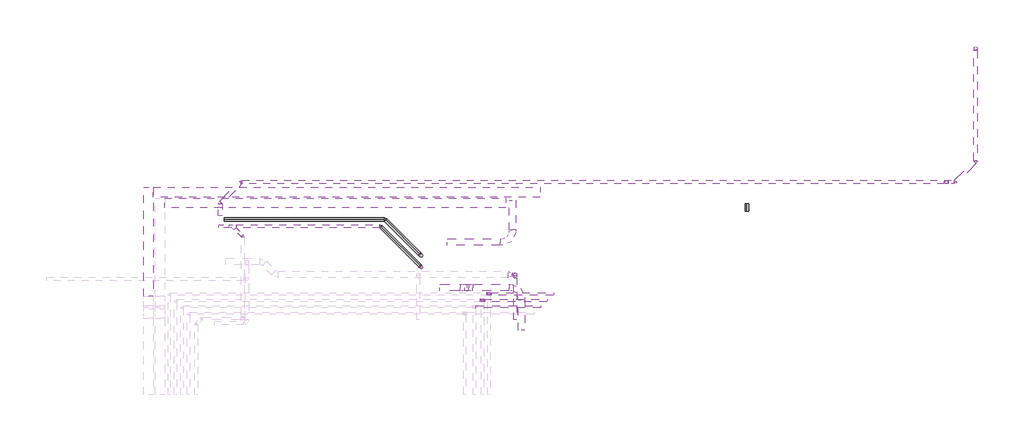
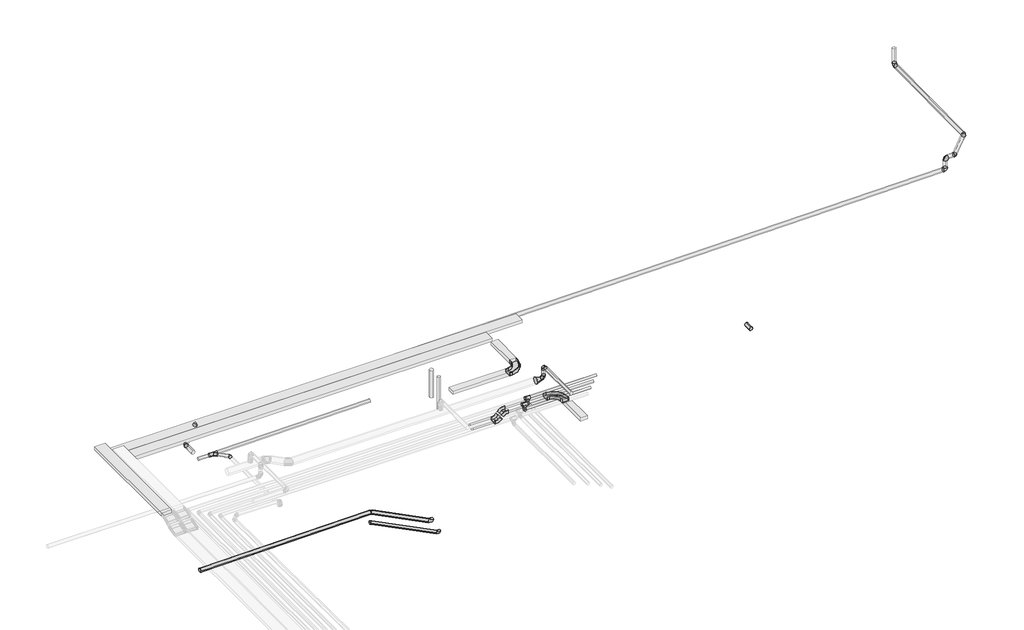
# One storey, part 5 of 5: 22 pipe segments, 17 pipe fittings, 9 cable carrier segments, 4 cable carrier fittings, 3 duct fittings, 2 duct segments.
"""IFC4 building model written with IfcOpenShell, lengths in millimetres."""

from ifc_helpers import new_model, si_unit, point, frame, frame_2d, origin, place, context, project, spatial, polyline, circle_curve, trimmed, segment, composite_curve, outline, extrude, transform, mapped, element, save
from components import m_codo_horizontal_de_canal_el_01cafb92, m_codo_vertical_exterior_de_canal_sf_2009c7b2, m_codo_vertical_interior_de_canal_sf_1a39cf6d, duct_fitting_e1dc29f6, m_codo_redondo_ext_1_d_85067ab4, pipe_fitting_7b861d32, pipe_fitting_67d104e7, pipe_fitting_3454c7e7, pipe_fitting_51958308, pipe_fitting_f9aaa2fa, pipe_fitting_5746b48a, pipe_fitting_3a68447e, pipe_fitting_22462b75, t_soldadura_a_enchufe_ff252817

model = new_model("IFC4")

# Units and contexts
model_context = context("Model", 3, world=origin())
ifc_project = project(units=[si_unit("LENGTHUNIT", "METRE", prefix="MILLI")], contexts=[model_context])

# Site, building, storey
site = spatial("IfcSite", under=ifc_project)
building = spatial("IfcBuilding", under=site)
storey = spatial("IfcBuildingStorey", under=building, Name="Nivell 02 P02_PP", Elevation=14910.0)

# Cable carrier fittings
placement = place(None, origin())
m_codo_horizontal_de_canal_el_shape = m_codo_horizontal_de_canal_el_01cafb92(model_context)
element("IfcCableCarrierFitting", 1, ObjectType="M_Codo horizontal de canal : EL", at=placement, inside=storey, context=model_context, shape_type="MappedRepresentation", body=[
    mapped(m_codo_horizontal_de_canal_el_shape, transform((16260.4560007, 7993.9729991, 17720.0), x_axis=(1.0, 0.0, 0.0), y_axis=(0.0, 1.0, 0.0), z_axis=(0.0, 0.0, 1.0))),
])
element("IfcCableCarrierFitting", 2, ObjectType="M_Codo horizontal de canal : SF", at=placement, inside=storey, context=model_context, shape_type="MappedRepresentation", body=[
    mapped(m_codo_horizontal_de_canal_el_shape, transform((16540.4560007, 6585.5467988, 17720.0), x_axis=(0.0, 1.0, 0.0), y_axis=(-1.0, 0.0, 0.0), z_axis=(0.0, 0.0, 1.0))),
])
m_codo_vertical_exterior_de_canal_sf_shape = m_codo_vertical_exterior_de_canal_sf_2009c7b2(model_context)
element("IfcCableCarrierFitting", 3, ObjectType="M_Codo vertical exterior de canal : SF", at=placement, inside=storey, context=model_context, shape_type="MappedRepresentation", body=[
    mapped(m_codo_vertical_exterior_de_canal_sf_shape, transform((14940.4560007, 6585.5467988, 17720.0), x_axis=(-1.0, 0.0, 0.0), y_axis=(0.0, 0.0, -1.0), z_axis=(0.0, -1.0, 0.0))),
])
m_codo_vertical_interior_de_canal_sf_shape = m_codo_vertical_interior_de_canal_sf_1a39cf6d(model_context)
element("IfcCableCarrierFitting", 4, ObjectType="M_Codo vertical interior de canal : SF", at=placement, inside=storey, context=model_context, shape_type="MappedRepresentation", body=[
    mapped(m_codo_vertical_interior_de_canal_sf_shape, transform((14749.5371698, 6585.5467988, 17529.0811691), x_axis=(-0.707106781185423, 0.0, -0.7071067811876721), y_axis=(-0.7071067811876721, 0.0, 0.707106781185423), z_axis=(0.0, 1.0, 0.0))),
])

# Cable carrier segments
element("IfcCableCarrierSegment", 5, ObjectType="EL", at=placement, inside=storey, context=model_context, shape_type="SweptSolid", body=[
    extrude(outline(polyline([(17114.9442475, 9685.9660196), (17114.9442475, 9385.9660196), (5158.2381883, 9385.9660196), (5158.2381883, 9685.9660196), (17114.9442475, 9685.9660196)])), frame((0.0, 0.0, 17960.0), z_axis=(0.0, 0.0, 1.0), x_axis=(1.0, 0.0, 0.0)), (0.0, 0.0, 1.0), 100.0),
])
element("IfcCableCarrierSegment", 6, ObjectType="EL", at=placement, inside=storey, context=model_context, shape_type="SweptSolid", body=[
    extrude(outline(polyline([(5507.0671065, 9056.732053), (5507.0671065, 9356.732053), (16057.0671065, 9356.732053), (16057.0671065, 9056.732053), (5507.0671065, 9056.732053)])), frame((0.0, 0.0, 17960.0), z_axis=(0.0, 0.0, 1.0), x_axis=(1.0, 0.0, 0.0)), (0.0, 0.0, 1.0), 100.0),
])
element("IfcCableCarrierSegment", 7, ObjectType="EL", at=placement, inside=storey, context=model_context, shape_type="SweptSolid", body=[
    extrude(outline(polyline([(14245.4560007, 7893.9729991), (14245.4560007, 8093.9729991), (15885.4560007, 8093.9729991), (15885.4560007, 7893.9729991), (14245.4560007, 7893.9729991)])), frame((0.0, 0.0, 17670.0), z_axis=(0.0, 0.0, 1.0), x_axis=(1.0, 0.0, 0.0)), (0.0, 0.0, 1.0), 100.0),
])
element("IfcCableCarrierSegment", 8, ObjectType="EL", at=placement, inside=storey, context=model_context, shape_type="SweptSolid", body=[
    extrude(outline(polyline([(16360.4560007, 8368.9729991), (16160.4560007, 8368.9729991), (16160.4560007, 9293.9729991), (16360.4560007, 9293.9729991), (16360.4560007, 8368.9729991)])), frame((0.0, 0.0, 17670.0), z_axis=(0.0, 0.0, 1.0), x_axis=(1.0, 0.0, 0.0)), (0.0, 0.0, 1.0), 100.0),
])
element("IfcCableCarrierSegment", 9, ObjectType="EL", at=placement, inside=storey, context=model_context, shape_type="SweptSolid", body=[
    extrude(outline(polyline([(4858.2381883, 9685.9660196), (5158.2381883, 9685.9660196), (5158.2381883, 6318.3981673), (4858.2381883, 6318.3981673), (4858.2381883, 9685.9660196)])), frame((0.0, 0.0, 18160.0), z_axis=(0.0, 0.0, 1.0), x_axis=(1.0, 0.0, 0.0)), (0.0, 0.0, 1.0), 100.0),
])
element("IfcCableCarrierSegment", 10, ObjectType="SF", at=placement, inside=storey, context=model_context, shape_type="SweptSolid", body=[
    extrude(outline(polyline([(16165.4560007, 6685.5467988), (16165.4560007, 6485.5467988), (15040.3088145, 6485.5467988), (15040.3088145, 6685.5467988), (16165.4560007, 6685.5467988)])), frame((0.0, 0.0, 17670.0), z_axis=(0.0, 0.0, 1.0), x_axis=(1.0, 0.0, 0.0)), (0.0, 0.0, 1.0), 100.0),
])
element("IfcCableCarrierSegment", 11, ObjectType="SF", at=placement, inside=storey, context=model_context, shape_type="SweptSolid", body=[
    extrude(outline(polyline([(16640.4560007, 5265.5467988), (16440.4560007, 5265.5467988), (16440.4560007, 6210.5467988), (16640.4560007, 6210.5467988), (16640.4560007, 5265.5467988)])), frame((0.0, 0.0, 17670.0), z_axis=(0.0, 0.0, 1.0), x_axis=(1.0, 0.0, 0.0)), (0.0, 0.0, 1.0), 100.0),
])
element("IfcCableCarrierSegment", 12, ObjectType="SF", at=placement, inside=storey, context=model_context, shape_type="SweptSolid", body=[
    extrude(outline(polyline([(50.0000001, -11.8033989), (50.0000001, -211.8033989), (-50.0, -211.8033989), (-50.0, -11.8033989), (50.0000001, -11.8033989)])), frame((14820.1437715, 6697.3501977, 17599.6877708), z_axis=(0.7071067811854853, 0.0, 0.7071067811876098), x_axis=(0.7071067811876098, 0.0, -0.7071067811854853)), (0.0, 0.0, 1.0), 70.2943725),
])
element("IfcCableCarrierSegment", 13, ObjectType="SF", at=placement, inside=storey, context=model_context, shape_type="SweptSolid", body=[
    extrude(outline(polyline([(14649.6843561, 6685.5467988), (14649.6843561, 6485.5467988), (14009.5371698, 6485.5467988), (14009.5371698, 6685.5467988), (14649.6843561, 6685.5467988)])), frame((0.0, 0.0, 17479.0811691), z_axis=(0.0, 0.0, 1.0), x_axis=(1.0, 0.0, 0.0)), (0.0, 0.0, 1.0), 100.0),
])

# Duct fittings
duct_fitting_shape = duct_fitting_e1dc29f6(model_context)
element("IfcDuctFitting", 14, ObjectType="M_Transición redonda - Ángulo : EXT_45 graus", at=placement, inside=storey, context=model_context, shape_type="MappedRepresentation", body=[
    mapped(duct_fitting_shape, transform((16250.5896993, 6992.2199701, 17990.0), x_axis=(-1.0, 0.0, 0.0), y_axis=(0.0, -1.0, 0.0), z_axis=(0.0, 0.0, 1.0))),
])
m_codo_redondo_ext_1_d_shape = m_codo_redondo_ext_1_d_85067ab4(model_context)
element("IfcDuctFitting", 15, ObjectType="M_Codo redondo : EXT_1 D", at=placement, inside=storey, context=model_context, shape_type="MappedRepresentation", body=[
    mapped(m_codo_redondo_ext_1_d_shape, transform((16350.5896993, 6992.2199701, 18360.0), x_axis=(0.0, 1.0, 0.0), y_axis=(0.0, 0.0, -1.0), z_axis=(-1.0, 0.0, 0.0))),
])
element("IfcDuctFitting", 16, ObjectType="M_Codo redondo : EXT_1 D", at=placement, inside=storey, context=model_context, shape_type="MappedRepresentation", body=[
    mapped(m_codo_redondo_ext_1_d_shape, transform((16350.5896993, 6992.2199701, 17990.0), x_axis=(0.0, 0.0, -1.0), y_axis=(-1.0, 0.0, 0.0), z_axis=(0.0, 1.0, 0.0))),
])

# Duct segments
element("IfcDuctSegment", 17, ObjectType="EXT_Acer Galvanitzat - Rígid", at=placement, inside=storey, context=model_context, shape_type="SweptSolid", body=[
    extrude(outline(composite_curve([segment(trimmed(circle_curve(frame_2d((18360.0, 16350.5896993)), 50.0), [point((18360.0, 16300.5896993))], [point((18310.0, 16350.5896993))], False, "CARTESIAN"), True, "CONTINUOUS"), segment(trimmed(circle_curve(frame_2d((18360.0, 16350.5896993)), 50.0), [point((18310.0, 16350.5896993))], [point((18360.0, 16400.5896993))], False, "CARTESIAN"), True, "CONTINUOUS"), segment(trimmed(circle_curve(frame_2d((18360.0, 16350.5896993)), 50.0), [point((18360.0, 16400.5896993))], [point((18410.0, 16350.5896993))], False, "CARTESIAN"), True, "CONTINUOUS"), segment(trimmed(circle_curve(frame_2d((18360.0, 16350.5896993)), 50.0), [point((18410.0, 16350.5896993))], [point((18360.0, 16300.5896993))], False, "CARTESIAN"), True, "CONTINUOUS")], self_intersect=False)), frame((0.0, 5590.7319202, 0.0), z_axis=(0.0, 1.0, 0.0), x_axis=(0.0, 0.0, 1.0)), (0.0, 0.0, 1.0), 1301.48805),
])
element("IfcDuctSegment", 18, ObjectType="EXT_Acer Galvanitzat - Rígid", at=placement, inside=storey, context=model_context, shape_type="SweptSolid", body=[
    extrude(outline(composite_curve([segment(trimmed(circle_curve(frame_2d((16350.5896993, 6992.2199701)), 50.0), [point((16400.5896993, 6992.2199701))], [point((16350.5896993, 6942.2199701))], False, "CARTESIAN"), True, "CONTINUOUS"), segment(trimmed(circle_curve(frame_2d((16350.5896993, 6992.2199701)), 50.0), [point((16350.5896993, 6942.2199701))], [point((16300.5896993, 6992.2199701))], False, "CARTESIAN"), True, "CONTINUOUS"), segment(trimmed(circle_curve(frame_2d((16350.5896993, 6992.2199701)), 50.0), [point((16300.5896993, 6992.2199701))], [point((16350.5896993, 7042.2199701))], False, "CARTESIAN"), True, "CONTINUOUS"), segment(trimmed(circle_curve(frame_2d((16350.5896993, 6992.2199701)), 50.0), [point((16350.5896993, 7042.2199701))], [point((16400.5896993, 6992.2199701))], False, "CARTESIAN"), True, "CONTINUOUS")], self_intersect=False)), frame((0.0, 0.0, 18090.0), z_axis=(0.0, 0.0, 1.0), x_axis=(1.0, 0.0, 0.0)), (0.0, 0.0, 1.0), 170.0),
])

# Pipe fittings
pipe_fitting_shape = pipe_fitting_7b861d32(model_context)
element("IfcPipeFitting", 19, ObjectType="M_Codo - Genérico : Estándar", at=placement, inside=storey, context=model_context, shape_type="MappedRepresentation", body=[
    mapped(pipe_fitting_shape, transform((7914.0627734, 8170.8910377, 17814.6011955), x_axis=(0.0, 0.9999500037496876, -0.00999950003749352), y_axis=(-0.999991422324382, -4.141685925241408e-05, -0.004141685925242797), z_axis=(-0.004141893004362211, 0.009999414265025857, 0.9999414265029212))),
])
element("IfcPipeFitting", 20, ObjectType="M_Codo - Genérico : Estándar", at=placement, inside=storey, context=model_context, shape_type="MappedRepresentation", body=[
    mapped(pipe_fitting_shape, transform((12180.1662457, 8480.5502052, 14105.9795799), x_axis=(-0.7070714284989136, 0.7070714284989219, -0.0099995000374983), y_axis=(-0.7070714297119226, -0.7071300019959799, -0.004141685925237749), z_axis=(-0.009999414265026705, 0.004141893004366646, 0.9999414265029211))),
])
pipe_fitting_2_shape = pipe_fitting_67d104e7(model_context)
element("IfcPipeFitting", 21, ObjectType="M_Codo - Genérico : Estándar", at=placement, inside=storey, context=model_context, shape_type="MappedRepresentation", body=[
    mapped(pipe_fitting_2_shape, transform((12318.5757792, 8697.1771083, 14244.2175715), x_axis=(0.9999500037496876, 0.0, 0.009999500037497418), y_axis=(4.141685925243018e-05, 0.9999914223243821, -0.004141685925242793), z_axis=(-0.009999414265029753, 0.004141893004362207, 0.9999414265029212))),
])
element("IfcPipeFitting", 22, ObjectType="M_Codo - Genérico : Estándar", at=placement, inside=storey, context=model_context, shape_type="MappedRepresentation", body=[
    mapped(pipe_fitting_2_shape, transform((30589.4059114, 10484.655764, 18374.9769213), x_axis=(0.0, -0.9999500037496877, -0.009999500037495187), y_axis=(0.9999914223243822, -4.141685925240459e-05, 0.004141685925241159), z_axis=(-0.004141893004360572, -0.009999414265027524, 0.9999414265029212))),
])
element("IfcPipeFitting", 23, ObjectType="M_Codo - Genérico : Estándar", at=placement, inside=storey, context=model_context, shape_type="MappedRepresentation", body=[
    mapped(pipe_fitting_2_shape, transform((7870.1942893, 9850.5932442, 17794.0689991), x_axis=(0.7070714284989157, 0.7070714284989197, 0.009999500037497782), y_axis=(-0.7070714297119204, 0.7071300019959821, -0.004141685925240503), z_axis=(-0.009999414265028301, -0.004141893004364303, 0.9999414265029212))),
])
element("IfcPipeFitting", 24, ObjectType="M_Codo - Genérico : Estándar", at=placement, inside=storey, context=model_context, shape_type="MappedRepresentation", body=[
    mapped(pipe_fitting_2_shape, transform((7222.9422017, 9203.3411566, 17784.9154723), x_axis=(0.0, 0.9999500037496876, 0.009999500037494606), y_axis=(-0.9999914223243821, 4.141685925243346e-05, -0.004141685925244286), z_axis=(-0.004141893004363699, -0.009999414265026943, 0.9999414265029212))),
])
pipe_fitting_3_shape = pipe_fitting_3454c7e7(model_context)
element("IfcPipeFitting", 25, ObjectType="M_Codo - Genérico : Estándar", at=placement, inside=storey, context=model_context, shape_type="MappedRepresentation", body=[
    mapped(pipe_fitting_3_shape, transform((13434.5619983, 7581.1908892, 14260.0), x_axis=(0.7070714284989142, -0.7070714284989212, 0.00999950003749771), y_axis=(0.007070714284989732, -0.007070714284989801, -0.9999500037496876), z_axis=(0.707106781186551, 0.707106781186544, 0.0))),
])
element("IfcPipeFitting", 26, ObjectType="M_Codo - Genérico : Estándar", at=placement, inside=storey, context=model_context, shape_type="MappedRepresentation", body=[
    mapped(pipe_fitting_3_shape, transform((30589.4059114, 13986.9636366, 18410.0), x_axis=(0.0, 0.0, -1.0), y_axis=(0.0, 1.0, 0.0), z_axis=(1.0, 0.0, 0.0))),
])
element("IfcPipeFitting", 27, ObjectType="M_Codo - Genérico : Estándar", at=placement, inside=storey, context=model_context, shape_type="MappedRepresentation", body=[
    mapped(pipe_fitting_3_shape, transform((29687.5503889, 9850.5932442, 18012.2425601), x_axis=(0.9999500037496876, 0.0, 0.00999950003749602), y_axis=(0.00999950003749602, 0.0, -0.9999500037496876), z_axis=(0.0, 1.0, 0.0))),
])
pipe_fitting_4_shape = pipe_fitting_51958308(model_context)
element("IfcPipeFitting", 28, ObjectType="M_Codo - Genérico : Estándar", at=placement, inside=storey, context=model_context, shape_type="MappedRepresentation", body=[
    mapped(pipe_fitting_4_shape, transform((13440.7814256, 7219.9350253, 14123.8073707), x_axis=(0.7070714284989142, -0.7070714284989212, 0.00999950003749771), y_axis=(0.007070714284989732, -0.007070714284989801, -0.9999500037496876), z_axis=(0.707106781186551, 0.707106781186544, 0.0))),
])
pipe_fitting_5_shape = pipe_fitting_f9aaa2fa(model_context)
element("IfcPipeFitting", 29, ObjectType="M_Codo - Genérico : Estándar", at=placement, inside=storey, context=model_context, shape_type="MappedRepresentation", body=[
    mapped(pipe_fitting_5_shape, transform((29955.352721, 9850.6025322, 18366.0030113), x_axis=(-0.7070713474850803, -0.7070713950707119, -0.010007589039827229), y_axis=(0.7070715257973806, -0.7071299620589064, 0.0041320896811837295), z_axis=(-0.009998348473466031, -0.004154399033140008, 0.9999413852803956))),
])
pipe_fitting_6_shape = pipe_fitting_5746b48a(model_context)
element("IfcPipeFitting", 30, ObjectType="M_Codo - Genérico : Estándar", at=placement, inside=storey, context=model_context, shape_type="MappedRepresentation", body=[
    mapped(pipe_fitting_6_shape, transform((29687.5503889, 9850.6025322, 18363.3252733), x_axis=(-0.9999500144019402, 0.0, -0.009998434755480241), y_axis=(-0.009998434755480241, 0.0, 0.9999500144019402), z_axis=(0.0, 1.0, 0.0))),
])
pipe_fitting_7_shape = pipe_fitting_3a68447e(model_context)
element("IfcPipeFitting", 31, ObjectType="M_Codo - Genérico : Estándar", at=placement, inside=storey, context=model_context, shape_type="MappedRepresentation", body=[
    mapped(pipe_fitting_7_shape, transform((15337.4352568, 6194.2427547, 17872.5), x_axis=(0.0, 0.0, -1.0), y_axis=(0.0, -1.0, 0.0), z_axis=(-1.0, 0.0, 0.0))),
])
element("IfcPipeFitting", 32, ObjectType="M_Codo - Genérico : Estándar", at=placement, inside=storey, context=model_context, shape_type="MappedRepresentation", body=[
    mapped(pipe_fitting_7_shape, transform((15537.4352568, 6394.2427547, 17872.5), x_axis=(0.0, 0.0, -1.0), y_axis=(0.0, -1.0, 0.0), z_axis=(-1.0, 0.0, 0.0))),
])
pipe_fitting_8_shape = pipe_fitting_22462b75(model_context)
element("IfcPipeFitting", 33, ObjectType="M_Te - Genérica : Estándar", at=placement, inside=storey, context=model_context, shape_type="MappedRepresentation", body=[
    mapped(pipe_fitting_8_shape, transform((7604.403606, 8480.5502052, 17810.2219535), x_axis=(0.9999500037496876, 0.0, 0.009999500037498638), y_axis=(4.141685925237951e-05, 0.9999914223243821, -0.004141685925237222), z_axis=(-0.009999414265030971, 0.004141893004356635, 0.9999414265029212))),
])
t_soldadura_a_enchufe_shape = t_soldadura_a_enchufe_ff252817(model_context)
element("IfcPipeFitting", 34, ObjectType="T-Soldadura a enchufe : Estándar", at=placement, inside=storey, context=model_context, shape_type="MappedRepresentation", body=[
    mapped(t_soldadura_a_enchufe_shape, transform((15337.4352568, 6194.2427547, 18022.5), x_axis=(-1.0, 0.0, 0.0), y_axis=(0.0, 0.0, 1.0), z_axis=(0.0, 1.0, 0.0))),
])
element("IfcPipeFitting", 35, ObjectType="T-Soldadura a enchufe : Estándar", at=placement, inside=storey, context=model_context, shape_type="MappedRepresentation", body=[
    mapped(t_soldadura_a_enchufe_shape, transform((15537.4352568, 6394.2427547, 18022.5), x_axis=(-1.0, 0.0, 0.0), y_axis=(0.0, 0.0, 1.0), z_axis=(0.0, 1.0, 0.0))),
])

# Pipe segments
element("IfcPipeSegment", 36, ObjectType="PVC_Baixant", at=placement, inside=storey, context=model_context, shape_type="SweptSolid", body=[
    extrude(outline(composite_curve([segment(trimmed(circle_curve(frame_2d((0.0, -55.0)), 55.0), [point((54.9972505, -54.450055))], [point((0.549945, -109.9972505))], False, "CARTESIAN"), True, "CONTINUOUS"), segment(trimmed(circle_curve(frame_2d((0.0, -55.0)), 55.0), [point((0.549945, -109.9972505))], [point((-54.9972505, -55.549945))], False, "CARTESIAN"), True, "CONTINUOUS"), segment(trimmed(circle_curve(frame_2d((0.0, -55.0)), 55.0), [point((-54.9972505, -55.549945))], [point((-0.549945, -0.0027495))], False, "CARTESIAN"), True, "CONTINUOUS"), segment(trimmed(circle_curve(frame_2d((0.0, -55.0)), 55.0), [point((-0.549945, -0.0027495))], [point((54.9972505, -54.450055))], False, "CARTESIAN"), True, "CONTINUOUS")], self_intersect=False)), frame((12337.0077448, 8679.5228824, 14299.4727397), z_axis=(0.7070714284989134, -0.707071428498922, 0.009999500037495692), x_axis=(0.7071421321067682, 0.7070007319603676, -0.009998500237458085)), (0.0, 0.0, 1.0), 1489.9424458),
])
element("IfcPipeSegment", 37, ObjectType="PVC_Baixant", at=placement, inside=storey, context=model_context, shape_type="SweptSolid", body=[
    extrude(outline(composite_curve([segment(trimmed(circle_curve(frame_2d((0.0, -55.0)), 55.0), [point((0.0, 0.0))], [point((55.0, -55.0))], False, "CARTESIAN"), True, "CONTINUOUS"), segment(trimmed(circle_curve(frame_2d((0.0, -55.0)), 55.0), [point((55.0, -55.0))], [point((0.0, -110.0))], False, "CARTESIAN"), True, "CONTINUOUS"), segment(trimmed(circle_curve(frame_2d((0.0, -55.0)), 55.0), [point((0.0, -110.0))], [point((-55.0, -55.0))], False, "CARTESIAN"), True, "CONTINUOUS"), segment(trimmed(circle_curve(frame_2d((0.0, -55.0)), 55.0), [point((-55.0, -55.0))], [point((0.0, 0.0))], False, "CARTESIAN"), True, "CONTINUOUS")], self_intersect=False)), frame((7340.5229136, 8752.1771083, 14194.4370429), z_axis=(0.9999500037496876, 0.0, 0.009999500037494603), x_axis=(0.009999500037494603, 0.0, -0.9999500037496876)), (0.0, 0.0, 1.0), 4952.2337229),
])
element("IfcPipeSegment", 38, ObjectType="PVC_Baixant", at=placement, inside=storey, context=model_context, shape_type="SweptSolid", body=[
    extrude(outline(composite_curve([segment(trimmed(circle_curve(frame_2d((0.0, -45.0)), 45.0), [point((44.9977504, -44.550045))], [point((0.449955, -89.9977504))], False, "CARTESIAN"), True, "CONTINUOUS"), segment(trimmed(circle_curve(frame_2d((0.0, -45.0)), 45.0), [point((0.449955, -89.9977504))], [point((-44.9977504, -45.449955))], False, "CARTESIAN"), True, "CONTINUOUS"), segment(trimmed(circle_curve(frame_2d((0.0, -45.0)), 45.0), [point((-44.9977504, -45.449955))], [point((-0.449955, -0.0022497))], False, "CARTESIAN"), True, "CONTINUOUS"), segment(trimmed(circle_curve(frame_2d((0.0, -45.0)), 45.0), [point((-0.449955, -0.0022497))], [point((44.9977504, -44.550045))], False, "CARTESIAN"), True, "CONTINUOUS")], self_intersect=False)), frame((12195.5085234, 8465.84426, 14151.1920532), z_axis=(0.7070714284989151, -0.7070714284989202, 0.009999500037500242), x_axis=(0.7071421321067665, 0.7070007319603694, -0.009998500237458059)), (0.0, 0.0, 1.0), 1709.3036347),
])
element("IfcPipeSegment", 39, ObjectType="PVC_Baixant", at=placement, inside=storey, context=model_context, shape_type="SweptSolid", body=[
    extrude(outline(composite_curve([segment(trimmed(circle_curve(frame_2d((13434.5619983, 7581.1908892)), 55.0), [point((13379.5619983, 7581.1908892))], [point((13434.5619983, 7636.1908892))], False, "CARTESIAN"), True, "CONTINUOUS"), segment(trimmed(circle_curve(frame_2d((13434.5619983, 7581.1908892)), 55.0), [point((13434.5619983, 7636.1908892))], [point((13489.5619983, 7581.1908892))], False, "CARTESIAN"), True, "CONTINUOUS"), segment(trimmed(circle_curve(frame_2d((13434.5619983, 7581.1908892)), 55.0), [point((13489.5619983, 7581.1908892))], [point((13434.5619983, 7526.1908892))], False, "CARTESIAN"), True, "CONTINUOUS"), segment(trimmed(circle_curve(frame_2d((13434.5619983, 7581.1908892)), 55.0), [point((13434.5619983, 7526.1908892))], [point((13379.5619983, 7581.1908892))], False, "CARTESIAN"), True, "CONTINUOUS")], self_intersect=False)), frame((0.0, 0.0, 18072.3112718), z_axis=(0.0, 0.0, 1.0), x_axis=(1.0, 0.0, 0.0)), (0.0, 0.0, 1.0), 837.6887282),
])
element("IfcPipeSegment", 40, ObjectType="PVC_Baixant", at=placement, inside=storey, context=model_context, shape_type="SweptSolid", body=[
    extrude(outline(composite_curve([segment(trimmed(circle_curve(frame_2d((0.0, 45.0)), 45.0), [point((-45.0, 45.0))], [point((0.0, 90.0))], False, "CARTESIAN"), True, "CONTINUOUS"), segment(trimmed(circle_curve(frame_2d((0.0, 45.0)), 45.0), [point((0.0, 90.0))], [point((45.0, 45.0))], False, "CARTESIAN"), True, "CONTINUOUS"), segment(trimmed(circle_curve(frame_2d((0.0, 45.0)), 45.0), [point((45.0, 45.0))], [point((0.0, 0.0))], False, "CARTESIAN"), True, "CONTINUOUS"), segment(trimmed(circle_curve(frame_2d((0.0, 45.0)), 45.0), [point((0.0, 0.0))], [point((-45.0, 45.0))], False, "CARTESIAN"), True, "CONTINUOUS")], self_intersect=False)), frame((13440.7814256, 7174.9350253, 17925.6736808), z_axis=(7.499326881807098e-05, 1.4604734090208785e-06, 0.9999999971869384), x_axis=(0.9999999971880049, -1.0952661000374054e-10, -7.4993268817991e-05)), (0.0, 0.0, 1.0), 984.3263739),
])
element("IfcPipeSegment", 41, ObjectType="PVC_Baixant", at=placement, inside=storey, context=model_context, shape_type="SweptSolid", body=[
    extrude(outline(composite_curve([segment(trimmed(circle_curve(frame_2d((0.0, -45.0)), 45.0), [point((0.0, 0.0))], [point((45.0, -45.0))], False, "CARTESIAN"), True, "CONTINUOUS"), segment(trimmed(circle_curve(frame_2d((0.0, -45.0)), 45.0), [point((45.0, -45.0))], [point((0.0, -90.0))], False, "CARTESIAN"), True, "CONTINUOUS"), segment(trimmed(circle_curve(frame_2d((0.0, -45.0)), 45.0), [point((0.0, -90.0))], [point((-45.0, -45.0))], False, "CARTESIAN"), True, "CONTINUOUS"), segment(trimmed(circle_curve(frame_2d((0.0, -45.0)), 45.0), [point((-45.0, -45.0))], [point((0.0, 0.0))], False, "CARTESIAN"), True, "CONTINUOUS")], self_intersect=False)), frame((7715.5489162, 8525.5502052, 17811.3334066), z_axis=(0.9999500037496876, 0.0, 0.009999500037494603), x_axis=(0.009999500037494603, 0.0, -0.9999500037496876)), (0.0, 0.0, 1.0), 4443.1422128),
])
element("IfcPipeSegment", 42, ObjectType="PVC_Baixant", at=placement, inside=storey, context=model_context, shape_type="SweptSolid", body=[
    extrude(outline(composite_curve([segment(trimmed(circle_curve(frame_2d((30589.4059114, 13986.9636366)), 55.0), [point((30534.4059114, 13986.9636366))], [point((30589.4059114, 14041.9636366))], False, "CARTESIAN"), True, "CONTINUOUS"), segment(trimmed(circle_curve(frame_2d((30589.4059114, 13986.9636366)), 55.0), [point((30589.4059114, 14041.9636366))], [point((30644.4059114, 13986.9636366))], False, "CARTESIAN"), True, "CONTINUOUS"), segment(trimmed(circle_curve(frame_2d((30589.4059114, 13986.9636366)), 55.0), [point((30644.4059114, 13986.9636366))], [point((30589.4059114, 13931.9636366))], False, "CARTESIAN"), True, "CONTINUOUS"), segment(trimmed(circle_curve(frame_2d((30589.4059114, 13986.9636366)), 55.0), [point((30589.4059114, 13931.9636366))], [point((30534.4059114, 13986.9636366))], False, "CARTESIAN"), True, "CONTINUOUS")], self_intersect=False)), frame((0.0, 0.0, 18472.3112718), z_axis=(0.0, 0.0, 1.0), x_axis=(1.0, 0.0, 0.0)), (0.0, 0.0, 1.0), 437.6887282),
])
element("IfcPipeSegment", 43, ObjectType="PVC_Baixant", at=placement, inside=storey, context=model_context, shape_type="SweptSolid", body=[
    extrude(outline(composite_curve([segment(trimmed(circle_curve(frame_2d((0.0, -55.0)), 55.0), [point((-55.0, -55.0))], [point((0.0, 0.0))], False, "CARTESIAN"), True, "CONTINUOUS"), segment(trimmed(circle_curve(frame_2d((0.0, -55.0)), 55.0), [point((0.0, 0.0))], [point((55.0, -55.0))], False, "CARTESIAN"), True, "CONTINUOUS"), segment(trimmed(circle_curve(frame_2d((0.0, -55.0)), 55.0), [point((55.0, -55.0))], [point((0.0, -110.0))], False, "CARTESIAN"), True, "CONTINUOUS"), segment(trimmed(circle_curve(frame_2d((0.0, -55.0)), 55.0), [point((0.0, -110.0))], [point((-55.0, -55.0))], False, "CARTESIAN"), True, "CONTINUOUS")], self_intersect=False)), frame((30589.4059114, 10511.2724723, 18320.2403384), z_axis=(0.0, 0.9999500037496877, 0.009999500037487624), x_axis=(1.0, 0.0, 0.0)), (0.0, 0.0, 1.0), 3414.1036727),
])
element("IfcPipeSegment", 44, ObjectType="PVC_Baixant", at=placement, inside=storey, context=model_context, shape_type="SweptSolid", body=[
    extrude(outline(composite_curve([segment(trimmed(circle_curve(frame_2d((0.0, -55.0)), 55.0), [point((-54.997246, -54.4496102))], [point((0.5503898, -0.0027539))], False, "CARTESIAN"), True, "CONTINUOUS"), segment(trimmed(circle_curve(frame_2d((0.0, -55.0)), 55.0), [point((0.5503898, -0.0027539))], [point((54.997246, -55.5503898))], False, "CARTESIAN"), True, "CONTINUOUS"), segment(trimmed(circle_curve(frame_2d((0.0, -55.0)), 55.0), [point((54.997246, -55.5503898))], [point((-0.5503899, -109.9972461))], False, "CARTESIAN"), True, "CONTINUOUS"), segment(trimmed(circle_curve(frame_2d((0.0, -55.0)), 55.0), [point((-0.5503899, -109.9972461))], [point((-54.997246, -54.4496102))], False, "CARTESIAN"), True, "CONTINUOUS")], self_intersect=False)), frame((29973.7846855, 9869.8128666, 18311.2693976), z_axis=(0.7070713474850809, 0.7070713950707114, 0.010007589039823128), x_axis=(0.7071422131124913, -0.707000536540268, -0.010006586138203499)), (0.0, 0.0, 1.0), 844.5954746),
])
element("IfcPipeSegment", 45, ObjectType="PVC_Baixant", at=placement, inside=storey, context=model_context, shape_type="SweptSolid", body=[
    extrude(outline(composite_curve([segment(trimmed(circle_curve(frame_2d((0.0, -55.0)), 55.0), [point((0.0, 0.0))], [point((55.0, -55.0))], False, "CARTESIAN"), True, "CONTINUOUS"), segment(trimmed(circle_curve(frame_2d((0.0, -55.0)), 55.0), [point((55.0, -55.0))], [point((0.0, -110.0))], False, "CARTESIAN"), True, "CONTINUOUS"), segment(trimmed(circle_curve(frame_2d((0.0, -55.0)), 55.0), [point((0.0, -110.0))], [point((-55.0, -55.0))], False, "CARTESIAN"), True, "CONTINUOUS"), segment(trimmed(circle_curve(frame_2d((0.0, -55.0)), 55.0), [point((-55.0, -55.0))], [point((0.0, 0.0))], False, "CARTESIAN"), True, "CONTINUOUS")], self_intersect=False)), frame((7896.2610251, 9905.5932442, 17794.3296664), z_axis=(0.9999500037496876, 0.0, 0.009999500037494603), x_axis=(0.009999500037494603, 0.0, -0.9999500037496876)), (0.0, 0.0, 1.0), 21730.0676293),
])
element("IfcPipeSegment", 46, ObjectType="PVC_Baixant", at=placement, inside=storey, context=model_context, shape_type="SweptSolid", body=[
    extrude(outline(composite_curve([segment(trimmed(circle_curve(frame_2d((0.0, -55.0)), 55.0), [point((-54.9972505, -54.450055))], [point((0.549945, -0.0027495))], False, "CARTESIAN"), True, "CONTINUOUS"), segment(trimmed(circle_curve(frame_2d((0.0, -55.0)), 55.0), [point((0.549945, -0.0027495))], [point((54.9972505, -55.549945))], False, "CARTESIAN"), True, "CONTINUOUS"), segment(trimmed(circle_curve(frame_2d((0.0, -55.0)), 55.0), [point((54.9972505, -55.549945))], [point((-0.5499449, -109.9972505))], False, "CARTESIAN"), True, "CONTINUOUS"), segment(trimmed(circle_curve(frame_2d((0.0, -55.0)), 55.0), [point((-0.5499449, -109.9972505))], [point((-54.9972505, -54.450055))], False, "CARTESIAN"), True, "CONTINUOUS")], self_intersect=False)), frame((7241.3741673, 9222.5508619, 17730.1816388), z_axis=(0.7070714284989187, 0.7070714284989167, 0.009999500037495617), x_axis=(0.7071421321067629, -0.7070007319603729, -0.009998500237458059)), (0.0, 0.0, 1.0), 863.2623688),
])
element("IfcPipeSegment", 47, ObjectType="PVC_Baixant", at=placement, inside=storey, context=model_context, shape_type="SweptSolid", body=[
    extrude(outline(composite_curve([segment(trimmed(circle_curve(frame_2d((0.0, -55.0)), 55.0), [point((0.0, 0.0))], [point((55.0, -55.0))], False, "CARTESIAN"), True, "CONTINUOUS"), segment(trimmed(circle_curve(frame_2d((0.0, -55.0)), 55.0), [point((55.0, -55.0))], [point((0.0, -110.0))], False, "CARTESIAN"), True, "CONTINUOUS"), segment(trimmed(circle_curve(frame_2d((0.0, -55.0)), 55.0), [point((0.0, -110.0))], [point((-55.0, -55.0))], False, "CARTESIAN"), True, "CONTINUOUS"), segment(trimmed(circle_curve(frame_2d((0.0, -55.0)), 55.0), [point((-55.0, -55.0))], [point((0.0, 0.0))], False, "CARTESIAN"), True, "CONTINUOUS")], self_intersect=False)), frame((29749.8586125, 9905.6025322, 18363.9482891), z_axis=(0.9999500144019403, 0.0, 0.009998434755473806), x_axis=(0.009998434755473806, 0.0, -0.9999500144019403)), (0.0, 0.0, 1.0), 179.4363416),
])
element("IfcPipeSegment", 48, ObjectType="PVC_Baixant", at=placement, inside=storey, context=model_context, shape_type="SweptSolid", body=[
    extrude(outline(composite_curve([segment(trimmed(circle_curve(frame_2d((0.0, 55.0)), 55.0), [point((-55.0, 55.0))], [point((0.0, 110.0))], False, "CARTESIAN"), True, "CONTINUOUS"), segment(trimmed(circle_curve(frame_2d((0.0, 55.0)), 55.0), [point((0.0, 110.0))], [point((55.0, 55.0))], False, "CARTESIAN"), True, "CONTINUOUS"), segment(trimmed(circle_curve(frame_2d((0.0, 55.0)), 55.0), [point((55.0, 55.0))], [point((0.0, 0.0))], False, "CARTESIAN"), True, "CONTINUOUS"), segment(trimmed(circle_curve(frame_2d((0.0, 55.0)), 55.0), [point((0.0, 0.0))], [point((-55.0, 55.0))], False, "CARTESIAN"), True, "CONTINUOUS")], self_intersect=False)), frame((29687.5503889, 9795.5932442, 18074.5560876), z_axis=(0.0, 4.1014092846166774e-05, 0.9999999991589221), x_axis=(1.0, 0.0, 0.0)), (0.0, 0.0, 1.0), 226.4600963),
])
element("IfcPipeSegment", 49, ObjectType="PVC_Baixant", at=placement, inside=storey, context=model_context, shape_type="SweptSolid", body=[
    extrude(outline(composite_curve([segment(trimmed(circle_curve(frame_2d((0.0, -55.0)), 55.0), [point((-55.0, -55.0))], [point((0.0, 0.0))], False, "CARTESIAN"), True, "CONTINUOUS"), segment(trimmed(circle_curve(frame_2d((0.0, -55.0)), 55.0), [point((0.0, 0.0))], [point((55.0, -55.0))], False, "CARTESIAN"), True, "CONTINUOUS"), segment(trimmed(circle_curve(frame_2d((0.0, -55.0)), 55.0), [point((55.0, -55.0))], [point((0.0, -110.0))], False, "CARTESIAN"), True, "CONTINUOUS"), segment(trimmed(circle_curve(frame_2d((0.0, -55.0)), 55.0), [point((0.0, -110.0))], [point((-55.0, -55.0))], False, "CARTESIAN"), True, "CONTINUOUS")], self_intersect=False)), frame((7222.9422017, 8816.4255701, 17726.0435665), z_axis=(0.0, 0.999950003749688, 0.009999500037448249), x_axis=(1.0, 0.0, 0.0)), (0.0, 0.0, 1.0), 361.4168927),
])
element("IfcPipeSegment", 50, ObjectType="PPR_CLI_Aquatherm Blue Pipe", at=placement, inside=storey, context=model_context, shape_type="SweptSolid", body=[
    extrude(outline(composite_curve([segment(trimmed(circle_curve(frame_2d((5994.2427547, 18022.5)), 37.5), [point((5956.7427547, 18022.5))], [point((5994.2427547, 18060.0))], False, "CARTESIAN"), True, "CONTINUOUS"), segment(trimmed(circle_curve(frame_2d((5994.2427547, 18022.5)), 37.5), [point((5994.2427547, 18060.0))], [point((6031.7427547, 18022.5))], False, "CARTESIAN"), True, "CONTINUOUS"), segment(trimmed(circle_curve(frame_2d((5994.2427547, 18022.5)), 37.5), [point((6031.7427547, 18022.5))], [point((5994.2427547, 17985.0))], False, "CARTESIAN"), True, "CONTINUOUS"), segment(trimmed(circle_curve(frame_2d((5994.2427547, 18022.5)), 37.5), [point((5994.2427547, 17985.0))], [point((5956.7427547, 18022.5))], False, "CARTESIAN"), True, "CONTINUOUS")], self_intersect=False)), frame((15125.9352568, 0.0, 0.0), z_axis=(1.0, 0.0, 0.0), x_axis=(0.0, 1.0, 0.0)), (0.0, 0.0, 1.0), 2016.3840359),
])
element("IfcPipeSegment", 51, ObjectType="PPR_CLI_Aquatherm Blue Pipe", at=placement, inside=storey, context=model_context, shape_type="SweptSolid", body=[
    extrude(outline(composite_curve([segment(trimmed(circle_curve(frame_2d((6194.2427547, 18022.5)), 37.5), [point((6156.7427547, 18022.5))], [point((6194.2427547, 18060.0))], False, "CARTESIAN"), True, "CONTINUOUS"), segment(trimmed(circle_curve(frame_2d((6194.2427547, 18022.5)), 37.5), [point((6194.2427547, 18060.0))], [point((6231.7427547, 18022.5))], False, "CARTESIAN"), True, "CONTINUOUS"), segment(trimmed(circle_curve(frame_2d((6194.2427547, 18022.5)), 37.5), [point((6231.7427547, 18022.5))], [point((6194.2427547, 17985.0))], False, "CARTESIAN"), True, "CONTINUOUS"), segment(trimmed(circle_curve(frame_2d((6194.2427547, 18022.5)), 37.5), [point((6194.2427547, 17985.0))], [point((6156.7427547, 18022.5))], False, "CARTESIAN"), True, "CONTINUOUS")], self_intersect=False)), frame((15375.9352568, 0.0, 0.0), z_axis=(1.0, 0.0, 0.0), x_axis=(0.0, 1.0, 0.0)), (0.0, 0.0, 1.0), 1966.3840359),
])
element("IfcPipeSegment", 52, ObjectType="PPR_CLI_Aquatherm Blue Pipe", at=placement, inside=storey, context=model_context, shape_type="SweptSolid", body=[
    extrude(outline(composite_curve([segment(trimmed(circle_curve(frame_2d((6394.2427547, 18022.5)), 37.5), [point((6356.7427547, 18022.5))], [point((6394.2427547, 18060.0))], False, "CARTESIAN"), True, "CONTINUOUS"), segment(trimmed(circle_curve(frame_2d((6394.2427547, 18022.5)), 37.5), [point((6394.2427547, 18060.0))], [point((6431.7427547, 18022.5))], False, "CARTESIAN"), True, "CONTINUOUS"), segment(trimmed(circle_curve(frame_2d((6394.2427547, 18022.5)), 37.5), [point((6431.7427547, 18022.5))], [point((6394.2427547, 17985.0))], False, "CARTESIAN"), True, "CONTINUOUS"), segment(trimmed(circle_curve(frame_2d((6394.2427547, 18022.5)), 37.5), [point((6394.2427547, 17985.0))], [point((6356.7427547, 18022.5))], False, "CARTESIAN"), True, "CONTINUOUS")], self_intersect=False)), frame((15575.9352568, 0.0, 0.0), z_axis=(1.0, 0.0, 0.0), x_axis=(0.0, 1.0, 0.0)), (0.0, 0.0, 1.0), 1966.3840359),
])
element("IfcPipeSegment", 53, ObjectType="PPR_CLI_Aquatherm Blue Pipe", at=placement, inside=storey, context=model_context, shape_type="SweptSolid", body=[
    extrude(outline(composite_curve([segment(trimmed(circle_curve(frame_2d((15337.4352568, 6194.2427547)), 37.5), [point((15374.9352568, 6194.2427547))], [point((15337.4352568, 6156.7427547))], False, "CARTESIAN"), True, "CONTINUOUS"), segment(trimmed(circle_curve(frame_2d((15337.4352568, 6194.2427547)), 37.5), [point((15337.4352568, 6156.7427547))], [point((15299.9352568, 6194.2427547))], False, "CARTESIAN"), True, "CONTINUOUS"), segment(trimmed(circle_curve(frame_2d((15337.4352568, 6194.2427547)), 37.5), [point((15299.9352568, 6194.2427547))], [point((15337.4352568, 6231.7427547))], False, "CARTESIAN"), True, "CONTINUOUS"), segment(trimmed(circle_curve(frame_2d((15337.4352568, 6194.2427547)), 37.5), [point((15337.4352568, 6231.7427547))], [point((15374.9352568, 6194.2427547))], False, "CARTESIAN"), True, "CONTINUOUS")], self_intersect=False)), frame((0.0, 0.0, 17917.9375), z_axis=(0.0, 0.0, 1.0), x_axis=(1.0, 0.0, 0.0)), (0.0, 0.0, 1.0), 66.0625),
])
element("IfcPipeSegment", 54, ObjectType="PPR_CLI_Aquatherm Blue Pipe", at=placement, inside=storey, context=model_context, shape_type="SweptSolid", body=[
    extrude(outline(composite_curve([segment(trimmed(circle_curve(frame_2d((15537.4352568, 6394.2427547)), 37.5), [point((15574.9352568, 6394.2427547))], [point((15537.4352568, 6356.7427547))], False, "CARTESIAN"), True, "CONTINUOUS"), segment(trimmed(circle_curve(frame_2d((15537.4352568, 6394.2427547)), 37.5), [point((15537.4352568, 6356.7427547))], [point((15499.9352568, 6394.2427547))], False, "CARTESIAN"), True, "CONTINUOUS"), segment(trimmed(circle_curve(frame_2d((15537.4352568, 6394.2427547)), 37.5), [point((15499.9352568, 6394.2427547))], [point((15537.4352568, 6431.7427547))], False, "CARTESIAN"), True, "CONTINUOUS"), segment(trimmed(circle_curve(frame_2d((15537.4352568, 6394.2427547)), 37.5), [point((15537.4352568, 6431.7427547))], [point((15574.9352568, 6394.2427547))], False, "CARTESIAN"), True, "CONTINUOUS")], self_intersect=False)), frame((0.0, 0.0, 17917.9375), z_axis=(0.0, 0.0, 1.0), x_axis=(1.0, 0.0, 0.0)), (0.0, 0.0, 1.0), 66.0625),
])
element("IfcPipeSegment", 55, ObjectType="AN_CI", at=placement, inside=storey, context=model_context, shape_type="SweptSolid", body=[
    extrude(outline(composite_curve([segment(trimmed(circle_curve(frame_2d((0.0, 50.8)), 50.8), [point((0.0, 101.5999999))], [point((50.8, 50.8))], False, "CARTESIAN"), True, "CONTINUOUS"), segment(trimmed(circle_curve(frame_2d((0.0, 50.8)), 50.8), [point((50.8, 50.8))], [point((0.0, 0.0))], False, "CARTESIAN"), True, "CONTINUOUS"), segment(trimmed(circle_curve(frame_2d((0.0, 50.8)), 50.8), [point((0.0, 0.0))], [point((-50.8, 50.8))], False, "CARTESIAN"), True, "CONTINUOUS"), segment(trimmed(circle_curve(frame_2d((0.0, 50.8)), 50.8), [point((-50.8, 50.8))], [point((0.0, 101.5999999))], False, "CARTESIAN"), True, "CONTINUOUS")], self_intersect=False)), frame((23464.1193187, 8952.9286663, 15810.0), z_axis=(-2.0856058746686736e-05, 0.9999999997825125, 0.0), x_axis=(0.0, 0.0, 1.0)), (0.0, 0.0, 1.0), 227.6125),
])
element("IfcPipeSegment", 56, ObjectType="PVC_Baixant", at=placement, inside=storey, context=model_context, shape_type="SweptSolid", body=[
    extrude(outline(composite_curve([segment(trimmed(circle_curve(frame_2d((0.0, -45.0)), 45.0), [point((44.9977504, -44.550045))], [point((0.4499551, -89.9977504))], False, "CARTESIAN"), True, "CONTINUOUS"), segment(trimmed(circle_curve(frame_2d((0.0, -45.0)), 45.0), [point((0.4499551, -89.9977504))], [point((-44.9977503, -45.449955))], False, "CARTESIAN"), True, "CONTINUOUS"), segment(trimmed(circle_curve(frame_2d((0.0, -45.0)), 45.0), [point((-44.9977503, -45.449955))], [point((-0.449955, -0.0022496))], False, "CARTESIAN"), True, "CONTINUOUS"), segment(trimmed(circle_curve(frame_2d((0.0, -45.0)), 45.0), [point((-0.449955, -0.0022496))], [point((44.9977504, -44.550045))], False, "CARTESIAN"), True, "CONTINUOUS")], self_intersect=False)), frame((7682.9952085, 8402.5949351, 17856.3289073), z_axis=(0.7070714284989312, -0.7070714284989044, 0.009999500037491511), x_axis=(0.7071421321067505, 0.7070007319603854, -0.009998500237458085)), (0.0, 0.0, 1.0), 305.0968807),
])
element("IfcPipeSegment", 57, ObjectType="PVC_Baixant", at=placement, inside=storey, context=model_context, shape_type="SweptSolid", body=[
    extrude(outline(composite_curve([segment(trimmed(circle_curve(frame_2d((0.0, -45.0)), 45.0), [point((0.0, 0.0))], [point((45.0, -45.0))], False, "CARTESIAN"), True, "CONTINUOUS"), segment(trimmed(circle_curve(frame_2d((0.0, -45.0)), 45.0), [point((45.0, -45.0))], [point((0.0, -90.0))], False, "CARTESIAN"), True, "CONTINUOUS"), segment(trimmed(circle_curve(frame_2d((0.0, -45.0)), 45.0), [point((0.0, -90.0))], [point((-45.0, -45.0))], False, "CARTESIAN"), True, "CONTINUOUS"), segment(trimmed(circle_curve(frame_2d((0.0, -45.0)), 45.0), [point((-45.0, -45.0))], [point((0.0, 0.0))], False, "CARTESIAN"), True, "CONTINUOUS")], self_intersect=False)), frame((7170.4469649, 8525.5502052, 17805.8823871), z_axis=(0.9999500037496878, 0.0, 0.009999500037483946), x_axis=(0.009999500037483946, 0.0, -0.9999500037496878)), (0.0, 0.0, 1.0), 322.8274709),
])

save(model, "model.ifc")
